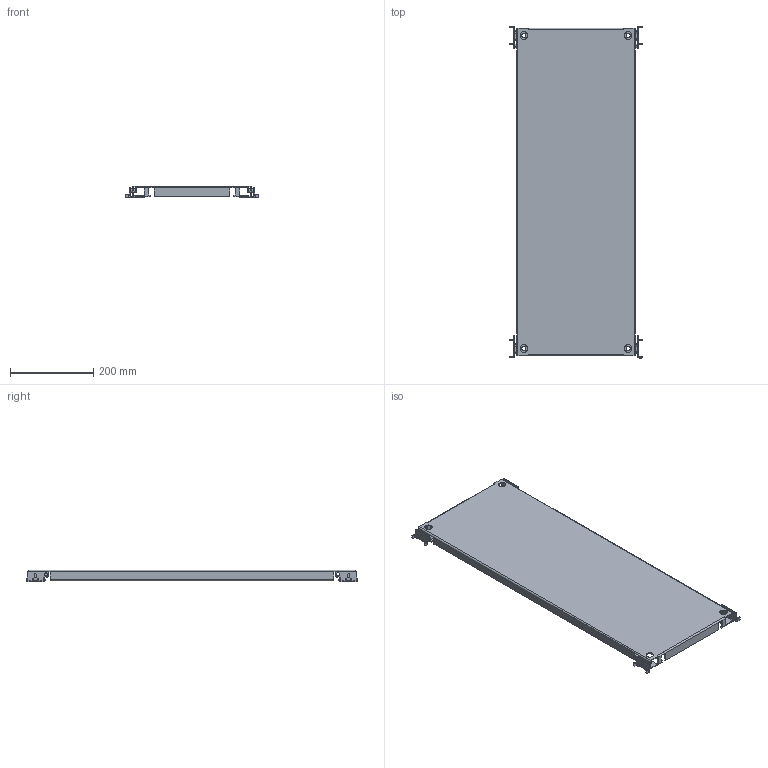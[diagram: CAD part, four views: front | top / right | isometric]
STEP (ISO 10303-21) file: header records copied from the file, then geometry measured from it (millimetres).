
FILE_DESCRIPTION (( 'STEP AP203' ), '1' );
FILE_NAME ('EUPZ-040090.step', '2015-11-24T08:38:28', ( 'Admin' ), ( '' ), 'SwSTEP 2.0', 'SolidWorks 2015', '' );
FILE_SCHEMA (( 'CONFIG_CONTROL_DESIGN' ));
Length unit declared in the file: millimetre
Products named in the file (9): AR_Montaggio_squadretta_fissaggio_piastra_parziale_ENUX_DX_SUP_CON_PERNO; AR_Montaggio_squadretta_fissaggio_piastra_parziale_ENUX_DX_INF_SENZA_PERNO; AR_Montaggio_squadretta_fissaggio_piastra_parziale_ENUX_SX_INF_SENZA_PERNO; AR_Piastra_parziale_ENUX_0400x0900; Perno_squadretta_piastra_parziale_ENUX; AR_Squadretta_fissaggio_piastra_parziale_ENUX_SX; EUPZ-040090; AR_Montaggio_squadretta_fissaggio_piastra_parziale_ENUX_SX_SUP_CON_PERNO; AR_Squadretta_fissaggio_piastra_parziale_ENUX_DX
Assembly tree (11 placements, depth 3):
  EUPZ-040090
    AR_Piastra_parziale_ENUX_0400x0900
    AR_Montaggio_squadretta_fissaggio_piastra_parziale_ENUX_SX_SUP_CON_PERNO
      AR_Squadretta_fissaggio_piastra_parziale_ENUX_SX
    AR_Montaggio_squadretta_fissaggio_piastra_parziale_ENUX_DX_SUP_CON_PERNO
      AR_Squadretta_fissaggio_piastra_parziale_ENUX_DX
    AR_Montaggio_squadretta_fissaggio_piastra_parziale_ENUX_DX_INF_SENZA_PERNO
      AR_Squadretta_fissaggio_piastra_parziale_ENUX_SX
    AR_Montaggio_squadretta_fissaggio_piastra_parziale_ENUX_SX_INF_SENZA_PERNO
      AR_Squadretta_fissaggio_piastra_parziale_ENUX_DX
    Perno_squadretta_piastra_parziale_ENUX  x2
Bounding box: 317 x 795.5 x 27.5 mm (x, y, z)
Volume: 761745.8 mm3; surface area: 621604.8 mm2
Topology: 7 solids, 7 shells, 550 faces, 1412 edges, 876 vertices
Faces by surface type: plane 362, cylinder 180, cone 8
Entity records: 11667 total; most frequent: CARTESIAN_POINT 1906, DIRECTION 1844, ORIENTED_EDGE 1808, EDGE_CURVE 904, VECTOR 672, LINE 672, AXIS2_PLACEMENT_3D 586, VERTEX_POINT 552
